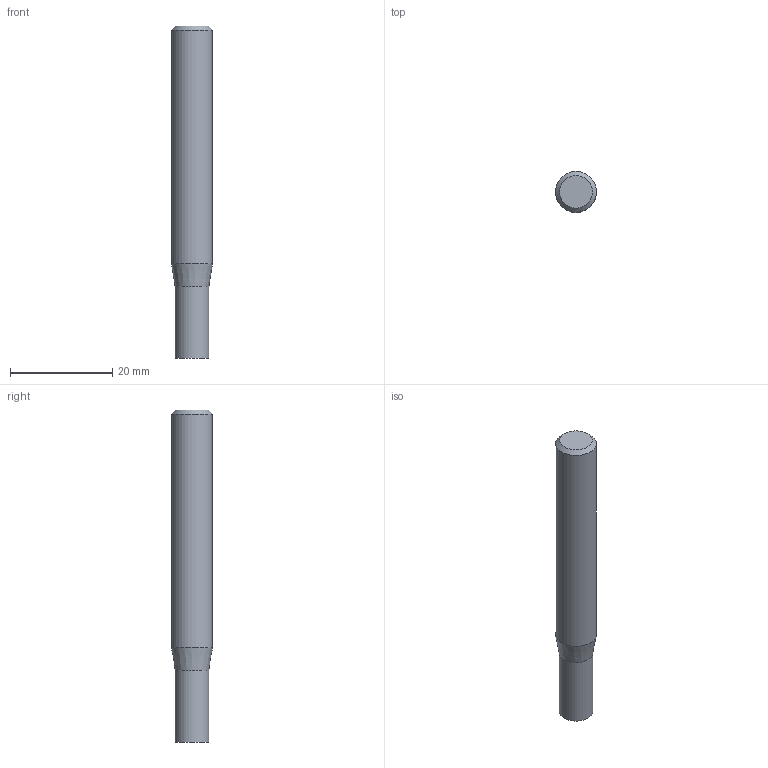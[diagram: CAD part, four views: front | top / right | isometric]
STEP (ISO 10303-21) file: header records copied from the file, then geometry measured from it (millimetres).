
FILE_DESCRIPTION((''),'2;1');
FILE_NAME('C:\Users\nsx150\AppData\Local\Temp\Mastercam 2021\98T1Q6BTT1\TEMP.step','2021-10-21T14:49:11',(''),(''),'STEP Write','Mastercam 2021 ... CNC Software, Inc.','');
FILE_SCHEMA(('AUTOMOTIVE_DESIGN'));
Length unit declared in the file: millimetre
Products named in the file (1): None
Bounding box: 8 x 8 x 65 mm (x, y, z)
Volume: 2998.4 mm3; surface area: 1703.9 mm2
Topology: 2 solids, 2 shells, 8 faces, 10 edges, 6 vertices
Faces by surface type: plane 4, cylinder 2, cone 2
Full cylindrical faces by diameter (mm): 6.6 x1, 8 x1
Entity records: 190 total; most frequent: DIRECTION 32, CARTESIAN_POINT 22, AXIS2_PLACEMENT_3D 16, ORIENTED_EDGE 12, EDGE_LOOP 12, STYLED_ITEM 11, ADVANCED_FACE 8, VERTEX_POINT 6
